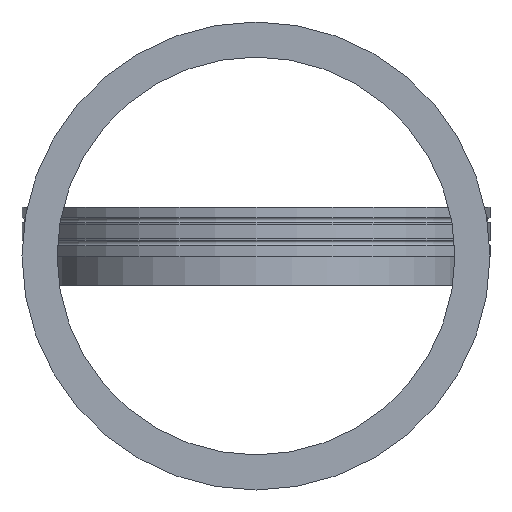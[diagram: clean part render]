
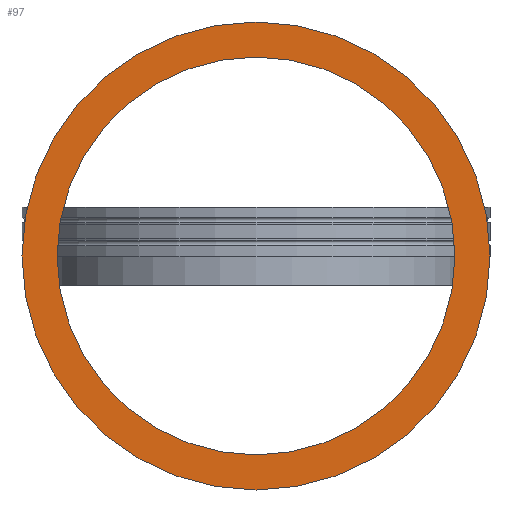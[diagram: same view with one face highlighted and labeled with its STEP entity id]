
A CAD part, left-side view. The second image highlights one B-rep face of the part: STEP entity #97.
In plain terms, the highlighted planar face has unit normal (-1, 0, 0) as drawn and (0, 0, -1) by its records, which use the part's own axes.
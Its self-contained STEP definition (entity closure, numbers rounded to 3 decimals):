
#97 = ADVANCED_FACE( '', ( #179, #180 ), #181, .F. );
#179 = FACE_BOUND( '', #258, .T. );
#180 = FACE_OUTER_BOUND( '', #259, .T. );
#181 = PLANE( '', #260 );
#258 = EDGE_LOOP( '', ( #406 ) );
#259 = EDGE_LOOP( '', ( #407 ) );
#260 = AXIS2_PLACEMENT_3D( '', #408, #409, #410 );
#406 = ORIENTED_EDGE( '', *, *, #603, .F. );
#407 = ORIENTED_EDGE( '', *, *, #585, .T. );
#408 = CARTESIAN_POINT( '', ( -76.5, 0., 0. ) );
#409 = DIRECTION( '', ( 0., 0., 1. ) );
#410 = DIRECTION( '', ( 1., 0., 0. ) );
#585 = EDGE_CURVE( '', #782, #782, #783, .T. );
#603 = EDGE_CURVE( '', #809, #809, #810, .T. );
#782 = VERTEX_POINT( '', #1101 );
#783 = CIRCLE( '', #1102, 90. );
#809 = VERTEX_POINT( '', #1128 );
#810 = CIRCLE( '', #1129, 76.5 );
#1101 = CARTESIAN_POINT( '', ( -90., 0., 0. ) );
#1102 = AXIS2_PLACEMENT_3D( '', #1196, #1197, #1198 );
#1128 = CARTESIAN_POINT( '', ( -76.5, 0., 0. ) );
#1129 = AXIS2_PLACEMENT_3D( '', #1223, #1224, #1225 );
#1196 = CARTESIAN_POINT( '', ( 0., 0., 0. ) );
#1197 = DIRECTION( '', ( 0., 0., -1. ) );
#1198 = DIRECTION( '', ( -1., 0., 0. ) );
#1223 = CARTESIAN_POINT( '', ( 0., 0., 0. ) );
#1224 = DIRECTION( '', ( 0., 0., -1. ) );
#1225 = DIRECTION( '', ( -1., 0., 0. ) );
